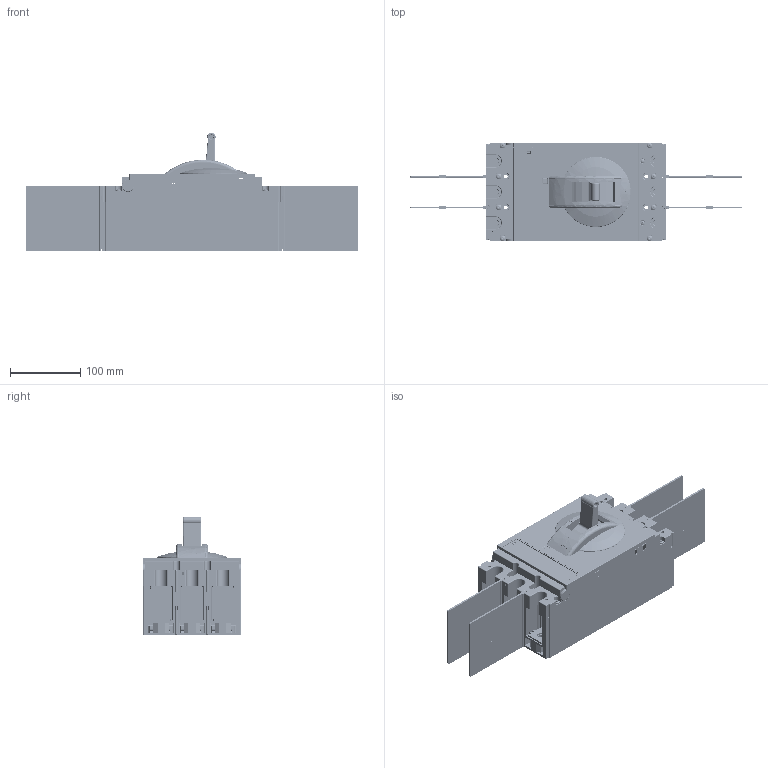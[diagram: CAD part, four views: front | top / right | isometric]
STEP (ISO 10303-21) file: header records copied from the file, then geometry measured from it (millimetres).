
FILE_DESCRIPTION(/* description */ (''),/* implementation_level */ '2;1');
FILE_NAME(/* name */ 'CM5-400(630) 3P.stp',/* time_stamp */ '2017-09-19T15:07:52+08:00',/* author */ (''),/* organization */ (''),/* preprocessor_version */ 'ST-DEVELOPER v11',/* originating_system */ 'SIEMENS PLM Software NX 7.5',/* authorisation */ '');
FILE_SCHEMA (('CONFIG_CONTROL_DESIGN'));
Products named in the file (1): model122
Bounding box: 472 x 140 x 168.7 mm (x, y, z)
Volume: 1458590 mm3; surface area: 981386.1 mm2
Topology: 52 solids, 53 shells, 9624 faces, 26096 edges, 16524 vertices
Faces by surface type: plane 5227, cylinder 3283, torus 608, sphere 313, bspline 103, extrusion 59, cone 31
Full cylindrical faces by diameter (mm): 1.6 x2, 2 x3, 2.3 x12, 2.4 x4, 2.5 x6, 2.52 x4, 2.7 x3, 3 x12, 3.1 x6, 3.2 x29, 3.3 x20, 4 x37, 4.2 x24, 4.3 x15, 4.6 x2, 4.9 x6, 5 x7, 5.2 x3, 5.23 x2, 5.5 x8, 5.6 x2, 6 x24, 6.5 x4, 7 x20, 7.9 x4, 8 x20, 8.5 x9, 9 x10, 9.5 x8, 11 x6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
Entity records: 302910 total; most frequent: CARTESIAN_POINT 59327, DIRECTION 51328, ORIENTED_EDGE 50402, EDGE_CURVE 25201, AXIS2_PLACEMENT_3D 17261, VECTOR 16806, LINE 16747, VERTEX_POINT 16356
